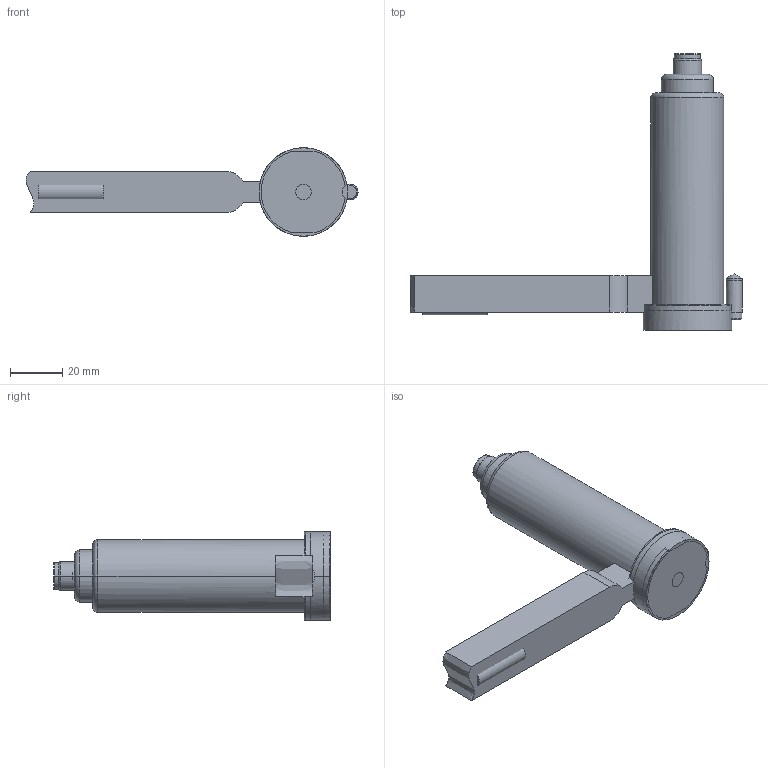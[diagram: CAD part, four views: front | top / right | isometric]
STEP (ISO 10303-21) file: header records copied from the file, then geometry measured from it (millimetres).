
FILE_DESCRIPTION((''),'2;1');
FILE_NAME('DG070004_ASM','2020-04-01T',('benoit'),(''),'PRO/ENGINEER BY PARAMETRIC TECHNOLOGY CORPORATION, 2007450','PRO/ENGINEER BY PARAMETRIC TECHNOLOGY CORPORATION, 2007450','');
FILE_SCHEMA(('CONFIG_CONTROL_DESIGN'));
Length unit declared in the file: millimetre
Products named in the file (9): DG010024; BF021024; DG070023; DG070020_CLIENT; CAPOT_79MM; GOUPILLE-6-16; 19X1_2E; DG070004-POCHE; DG070004_ASM
Assembly tree (8 placements, depth 2):
  DG070004_ASM
    DG010024
    BF021024
    DG070023
    DG070020_CLIENT
    CAPOT_79MM
    GOUPILLE-6-16
    19X1_2E
    DG070004-POCHE
Bounding box: 127.55 x 106.29 x 34 mm (x, y, z)
Volume: 124424.7 mm3; surface area: 52652.9 mm2
Topology: 8 solids, 8 shells, 268 faces, 651 edges, 403 vertices
Faces by surface type: cylinder 98, plane 93, cone 34, bspline 22, torus 17, sphere 3, extrusion 1
Entity records: 11586 total; most frequent: CARTESIAN_POINT 5194, DIRECTION 1311, ORIENTED_EDGE 1292, EDGE_CURVE 646, AXIS2_PLACEMENT_3D 516, VERTEX_POINT 403, EDGE_LOOP 293, VECTOR 279
